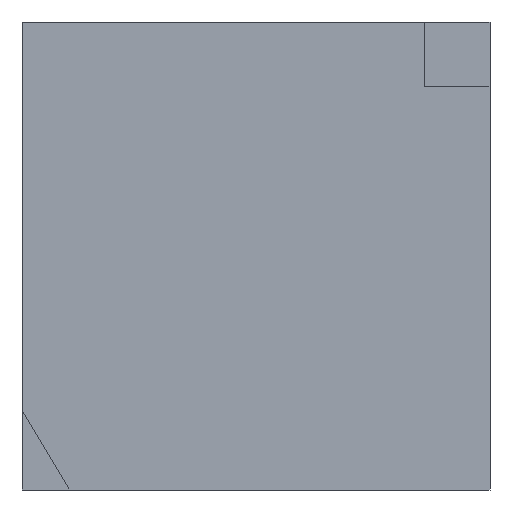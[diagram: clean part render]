
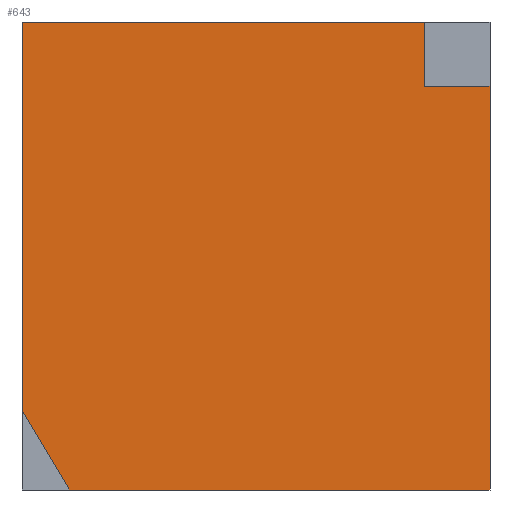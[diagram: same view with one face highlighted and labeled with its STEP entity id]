
A CAD part, left-side view. The second image highlights one B-rep face of the part: STEP entity #643.
In plain terms, the highlighted planar face has unit normal (-1, 0, 0).
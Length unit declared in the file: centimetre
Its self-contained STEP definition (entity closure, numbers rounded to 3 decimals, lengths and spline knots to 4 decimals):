
#32 = CARTESIAN_POINT ( 'NONE',  ( 0., 898.6829, 0. ) ) ;
#40 = LINE ( 'NONE', #889, #555 ) ;
#41 = FACE_OUTER_BOUND ( 'NONE', #1228, .T. ) ;
#69 = ORIENTED_EDGE ( 'NONE', *, *, #181, .F. ) ;
#89 = CARTESIAN_POINT ( 'NONE',  ( 0., 1000., 1000. ) ) ;
#90 = CARTESIAN_POINT ( 'NONE',  ( 0., 1000., 170.1431 ) ) ;
#91 = EDGE_CURVE ( 'NONE', #1122, #846, #455, .T. ) ;
#98 = VERTEX_POINT ( 'NONE', #988 ) ;
#135 = DIRECTION ( 'NONE',  ( 0., -1., 0. ) ) ;
#181 = EDGE_CURVE ( 'NONE', #213, #304, #983, .T. ) ;
#195 = LINE ( 'NONE', #717, #1196 ) ;
#213 = VERTEX_POINT ( 'NONE', #1374 ) ;
#244 = VECTOR ( 'NONE', #135, 100. ) ;
#259 = DIRECTION ( 'NONE',  ( 0., 0., -1. ) ) ;
#262 = EDGE_CURVE ( 'NONE', #1054, #1313, #823, .T. ) ;
#301 = CARTESIAN_POINT ( 'NONE',  ( 0., 0., 1000. ) ) ;
#304 = VERTEX_POINT ( 'NONE', #90 ) ;
#306 = EDGE_CURVE ( 'NONE', #1122, #304, #1125, .T. ) ;
#320 = CARTESIAN_POINT ( 'NONE',  ( 0., 140.3146, 1000. ) ) ;
#362 = CARTESIAN_POINT ( 'NONE',  ( 0., 1000., 1000. ) ) ;
#376 = ORIENTED_EDGE ( 'NONE', *, *, #689, .F. ) ;
#391 = CARTESIAN_POINT ( 'NONE',  ( 0., 1000., 1000. ) ) ;
#403 = CARTESIAN_POINT ( 'NONE',  ( 0., 0., 862.9456 ) ) ;
#418 = DIRECTION ( 'NONE',  ( 0., -1., 0. ) ) ;
#455 = LINE ( 'NONE', #362, #244 ) ;
#456 = ORIENTED_EDGE ( 'NONE', *, *, #91, .F. ) ;
#459 = PLANE ( 'NONE',  #1095 ) ;
#466 = DIRECTION ( 'NONE',  ( 0., -1., 0. ) ) ;
#516 = EDGE_CURVE ( 'NONE', #213, #1313, #40, .T. ) ;
#517 = ORIENTED_EDGE ( 'NONE', *, *, #1029, .F. ) ;
#527 = VECTOR ( 'NONE', #1311, 100. ) ;
#555 = VECTOR ( 'NONE', #466, 100. ) ;
#578 = DIRECTION ( 'NONE',  ( 1., 0., 0. ) ) ;
#627 = ORIENTED_EDGE ( 'NONE', *, *, #262, .F. ) ;
#643 = ADVANCED_FACE ( 'NONE', ( #41 ), #459, .F. ) ;
#689 = EDGE_CURVE ( 'NONE', #846, #98, #900, .T. ) ;
#717 = CARTESIAN_POINT ( 'NONE',  ( 0., 0., 862.9456 ) ) ;
#803 = DIRECTION ( 'NONE',  ( 0., 0., -1. ) ) ;
#823 = LINE ( 'NONE', #301, #950 ) ;
#846 = VERTEX_POINT ( 'NONE', #320 ) ;
#889 = CARTESIAN_POINT ( 'NONE',  ( 0., 1000., 0. ) ) ;
#900 = LINE ( 'NONE', #1219, #1362 ) ;
#911 = DIRECTION ( 'NONE',  ( 0., 0., -1. ) ) ;
#940 = DIRECTION ( 'NONE',  ( 0., 0., -1. ) ) ;
#943 = ORIENTED_EDGE ( 'NONE', *, *, #306, .T. ) ;
#950 = VECTOR ( 'NONE', #911, 100. ) ;
#983 = LINE ( 'NONE', #32, #527 ) ;
#987 = CARTESIAN_POINT ( 'NONE',  ( 0., 1000., 1000. ) ) ;
#988 = CARTESIAN_POINT ( 'NONE',  ( 0., 140.3146, 862.9456 ) ) ;
#1013 = ORIENTED_EDGE ( 'NONE', *, *, #516, .T. ) ;
#1029 = EDGE_CURVE ( 'NONE', #98, #1054, #195, .T. ) ;
#1054 = VERTEX_POINT ( 'NONE', #403 ) ;
#1058 = VECTOR ( 'NONE', #940, 100. ) ;
#1095 = AXIS2_PLACEMENT_3D ( 'NONE', #987, #578, #803 ) ;
#1122 = VERTEX_POINT ( 'NONE', #89 ) ;
#1125 = LINE ( 'NONE', #391, #1058 ) ;
#1196 = VECTOR ( 'NONE', #418, 100. ) ;
#1219 = CARTESIAN_POINT ( 'NONE',  ( 0., 140.3146, 862.9456 ) ) ;
#1225 = CARTESIAN_POINT ( 'NONE',  ( 0., 0., 0. ) ) ;
#1228 = EDGE_LOOP ( 'NONE', ( #627, #517, #376, #456, #943, #69, #1013 ) ) ;
#1311 = DIRECTION ( 'NONE',  ( 0., 0.512, 0.859 ) ) ;
#1313 = VERTEX_POINT ( 'NONE', #1225 ) ;
#1362 = VECTOR ( 'NONE', #259, 100. ) ;
#1374 = CARTESIAN_POINT ( 'NONE',  ( 0., 898.6829, 0. ) ) ;
